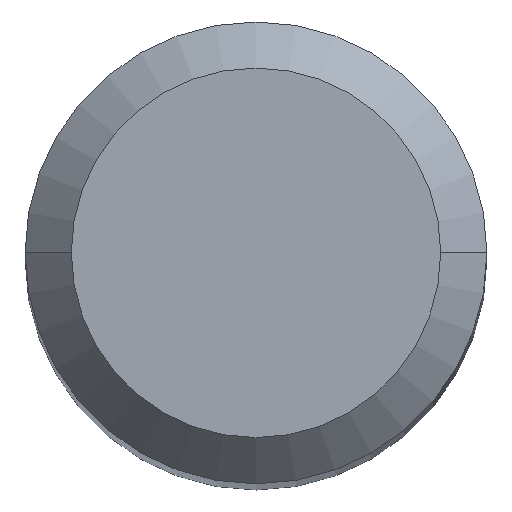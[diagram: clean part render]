
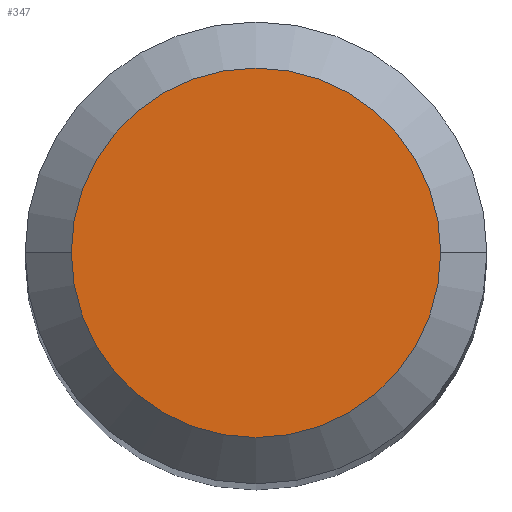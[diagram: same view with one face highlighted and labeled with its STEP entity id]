
A CAD part, top view. The second image highlights one B-rep face of the part: STEP entity #347.
In plain terms, the highlighted planar face has unit normal (0, 0, 1).
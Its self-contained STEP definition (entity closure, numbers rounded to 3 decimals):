
#2 = DIRECTION ( 'NONE',  ( 0., 0., 1. ) ) ;
#9 = DIRECTION ( 'NONE',  ( 0., 0., -1. ) ) ;
#54 = CIRCLE ( 'NONE', #124, 1.6 ) ;
#63 = EDGE_CURVE ( 'NONE', #448, #440, #54, .T. ) ;
#76 = AXIS2_PLACEMENT_3D ( 'NONE', #438, #2, #568 ) ;
#124 = AXIS2_PLACEMENT_3D ( 'NONE', #405, #455, #260 ) ;
#219 = CARTESIAN_POINT ( 'NONE',  ( -1.6, 0., 0. ) ) ;
#220 = EDGE_CURVE ( 'NONE', #440, #448, #427, .T. ) ;
#243 = PLANE ( 'NONE',  #76 ) ;
#260 = DIRECTION ( 'NONE',  ( -1., 0., 0. ) ) ;
#302 = CARTESIAN_POINT ( 'NONE',  ( 1.6, 0., 0. ) ) ;
#332 = CARTESIAN_POINT ( 'NONE',  ( 0., 0., 0. ) ) ;
#347 = ADVANCED_FACE ( 'NONE', ( #481 ), #243, .T. ) ;
#375 = DIRECTION ( 'NONE',  ( -1., 0., 0. ) ) ;
#378 = ORIENTED_EDGE ( 'NONE', *, *, #63, .F. ) ;
#403 = EDGE_LOOP ( 'NONE', ( #378, #591 ) ) ;
#405 = CARTESIAN_POINT ( 'NONE',  ( 0., 0., 0. ) ) ;
#427 = CIRCLE ( 'NONE', #470, 1.6 ) ;
#438 = CARTESIAN_POINT ( 'NONE',  ( 0., 1.6, 0. ) ) ;
#440 = VERTEX_POINT ( 'NONE', #302 ) ;
#448 = VERTEX_POINT ( 'NONE', #219 ) ;
#455 = DIRECTION ( 'NONE',  ( 0., 0., -1. ) ) ;
#470 = AXIS2_PLACEMENT_3D ( 'NONE', #332, #9, #375 ) ;
#481 = FACE_OUTER_BOUND ( 'NONE', #403, .T. ) ;
#568 = DIRECTION ( 'NONE',  ( 1., 0., 0. ) ) ;
#591 = ORIENTED_EDGE ( 'NONE', *, *, #220, .F. ) ;
